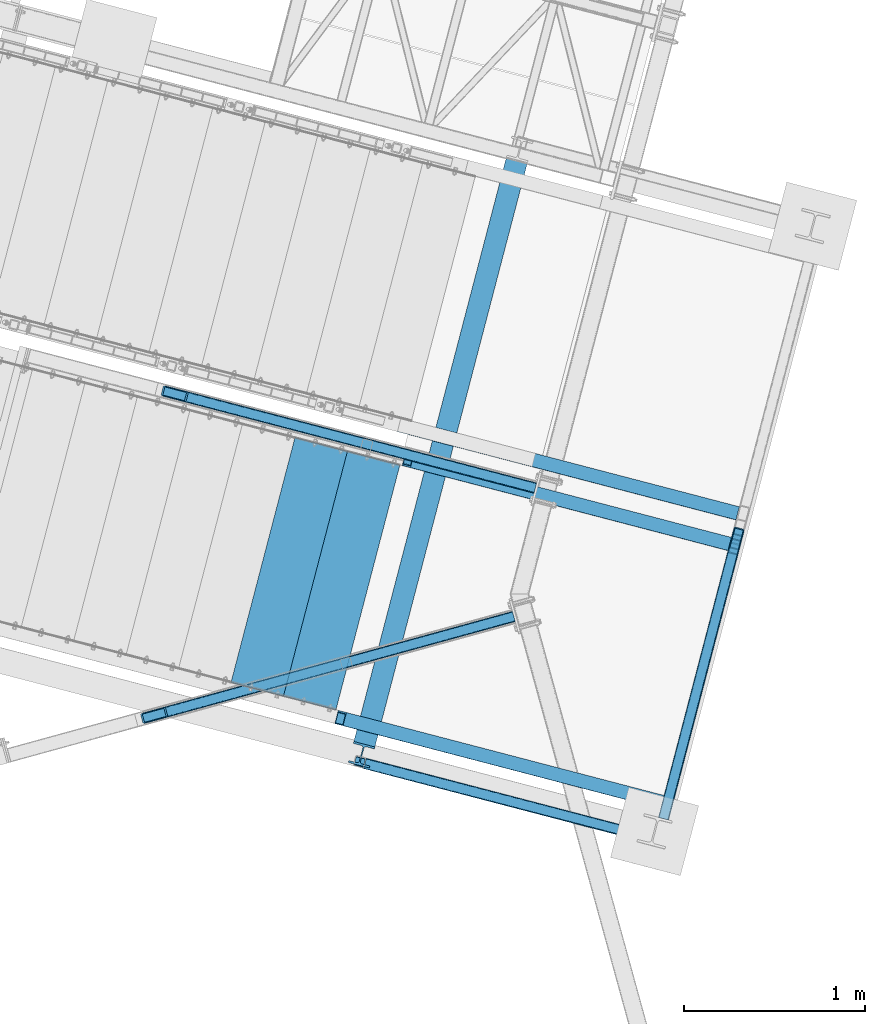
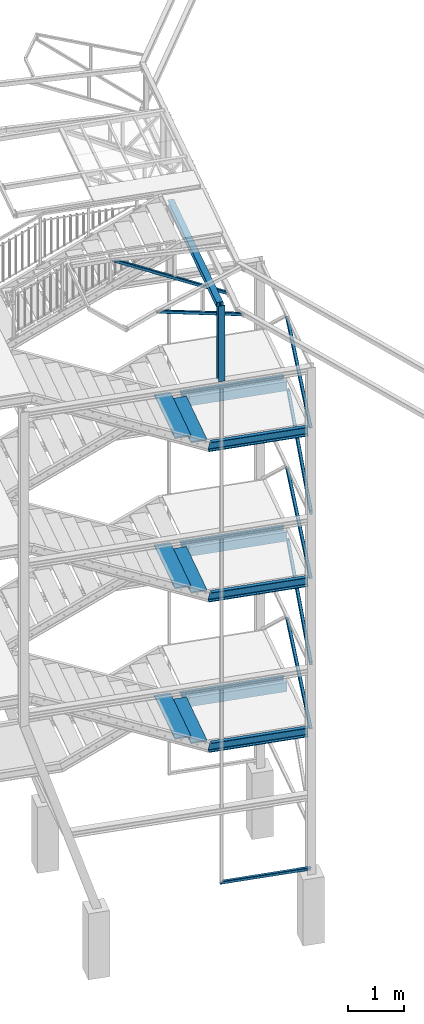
# One storey, part 37 of 169: 25 discrete accessories, 24 elements without a shape of their own.
"""IFC2X3 building model written with IfcOpenShell, lengths in millimetres."""

from ifc_helpers import new_model, si_unit, frame, origin_with_axes, origin_2d_with_axis, place, context, subcontext, project, spatial, polyline, hollow_rectangle, i_section, u_section, outline, extrude, boolean, clip, halfspace, material, type_object, element, aggregate, save


model = new_model("IFC2X3")

# Units and contexts
model_context = context("Model", 3, precision=1e-05, world=origin_with_axes())
body_context = subcontext(model_context, "Body", "Model", "MODEL_VIEW")
ifc_project = project(units=[si_unit("LENGTHUNIT", "METRE", prefix="MILLI"), si_unit("AREAUNIT", "SQUARE_METRE"), si_unit("VOLUMEUNIT", "CUBIC_METRE"), si_unit("MASSUNIT", "GRAM", prefix="KILO"), si_unit("TIMEUNIT", "SECOND"), si_unit("PLANEANGLEUNIT", "RADIAN"), si_unit("SOLIDANGLEUNIT", "STERADIAN"), si_unit("THERMODYNAMICTEMPERATUREUNIT", "DEGREE_CELSIUS"), si_unit("LUMINOUSINTENSITYUNIT", "LUMEN")], contexts=[model_context])

# Site, building, storey
site_placement = place(None, origin_with_axes())
site = spatial("IfcSite", under=ifc_project, at=site_placement, Name="Undefined", CompositionType="ELEMENT")
building_placement = place(site_placement, origin_with_axes())
building = spatial("IfcBuilding", under=site, at=building_placement, Name="Undefined", CompositionType="ELEMENT")
storey_placement = place(building_placement, origin_with_axes())
storey = spatial("IfcBuildingStorey", under=building, at=storey_placement, Name="Undefined", CompositionType="ELEMENT", Elevation=0.0)

# Assembly, discrete accessory
assembly_1_placement = place(storey_placement, origin_with_axes())
assembly_1 = element("IfcElementAssembly", 1, at=assembly_1_placement, inside=storey, Name="Steel Assembly", AssemblyPlace="NOTDEFINED", PredefinedType="RIGID_FRAME")
ifc_material_1 = material(Name="STEEL/S235")
discrete_accessory_type_1 = type_object("IfcDiscreteAccessoryType", Name="BEAM")
discrete_accessory_1_placement = place(assembly_1_placement, frame((-26042.4196522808, 4978.09536056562, 13846.2274015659), z_axis=(0.264972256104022, -0.964256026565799, -0.000136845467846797), x_axis=(0.853764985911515, 0.234675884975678, -0.46477153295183)))
discrete_accessory_1 = element("IfcDiscreteAccessory", 2, at=discrete_accessory_1_placement, type_object=discrete_accessory_type_1, material=ifc_material_1, Name="BEAM", ObjectType="SHS60*4", context=body_context, shape_type="Clipping", body=[
    clip(clip(extrude(hollow_rectangle(XDim=60.0, YDim=60.0, WallThickness=4.0, InnerFilletRadius=4.0, OuterFilletRadius=8.0, at=origin_2d_with_axis()), frame((2313.86418311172, -2.95168537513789e-14, 1.88898203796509e-12), z_axis=(-1.0, -3.46944695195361e-18, -1.38777878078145e-17), x_axis=(1.73472347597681e-18, -1.0, 0.0)), (0.0, 0.0, 1.0), 2547.06), halfspace(frame((2189.31513366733, 30.0000982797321, 0.00127692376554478), z_axis=(-0.885430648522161, -0.464771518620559, 4.62251412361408e-05), x_axis=(5.84452482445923e-05, -1.1885566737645e-05, 0.999999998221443)), True)), halfspace(frame((-202.833458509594, -36.3005821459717, 1000.00009236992), z_axis=(0.420020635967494, -0.907514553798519, 2.31037038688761e-06), x_axis=(0.907514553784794, 0.420020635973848, 4.99097867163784e-06)), True)),
])
aggregate(assembly_1, [discrete_accessory_1])

assembly_2_placement = place(storey_placement, origin_with_axes())
assembly_2 = element("IfcElementAssembly", 3, at=assembly_2_placement, inside=storey, Name="Steel Assembly", AssemblyPlace="NOTDEFINED", PredefinedType="RIGID_FRAME")
discrete_accessory_2_placement = place(assembly_2_placement, frame((-25930.3382093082, 6699.55484888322, 13846.9371574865), z_axis=(-0.252673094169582, -0.967551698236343, 0.000136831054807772), x_axis=(0.856714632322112, -0.223794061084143, -0.464710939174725)))
discrete_accessory_2 = element("IfcDiscreteAccessory", 4, at=discrete_accessory_2_placement, type_object=discrete_accessory_type_1, material=ifc_material_1, Name="BEAM", ObjectType="SHS60*4", context=body_context, shape_type="Clipping", body=[
    clip(clip(extrude(hollow_rectangle(XDim=60.0, YDim=60.0, WallThickness=4.0, InnerFilletRadius=4.0, OuterFilletRadius=8.0, at=origin_2d_with_axis()), frame((2313.28865775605, 0.0, -6.28963450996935e-13), z_axis=(-1.0, -3.46944695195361e-18, -1.38777878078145e-17), x_axis=(1.73472347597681e-18, -1.0, 0.0)), (0.0, 0.0, 1.0), 2543.43), halfspace(frame((2189.92517648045, 30.0000576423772, -0.000485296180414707), z_axis=(-0.885421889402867, -0.464788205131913, 4.62224128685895e-05), x_axis=(3.42692154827e-05, 3.41654523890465e-05, 0.999999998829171)), True)), halfspace(frame((-200.96246368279, -36.3005821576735, 1000.00009235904), z_axis=(0.420020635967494, -0.907514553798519, 2.31037038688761e-06), x_axis=(0.907514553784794, 0.420020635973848, 4.99097867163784e-06)), True)),
])
aggregate(assembly_2, [discrete_accessory_2])

assembly_3_placement = place(storey_placement, origin_with_axes())
assembly_3 = element("IfcElementAssembly", 5, at=assembly_3_placement, inside=storey, Name="Steel Assembly", AssemblyPlace="NOTDEFINED", PredefinedType="RIGID_FRAME")
discrete_accessory_3_placement = place(assembly_3_placement, frame((-25012.1288601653, 4690.68963165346, 1140.45098316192), z_axis=(-3.45692487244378e-05, -0.000132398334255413, -0.999999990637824), x_axis=(0.967563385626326, -0.252628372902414, 0.0)))
discrete_accessory_3 = element("IfcDiscreteAccessory", 6, at=discrete_accessory_3_placement, type_object=discrete_accessory_type_1, material=ifc_material_1, Name="BEAM", ObjectType="SHS60*4", context=body_context, shape_type="CSG", body=[
    boolean("DIFFERENCE", boolean("DIFFERENCE", boolean("DIFFERENCE", extrude(hollow_rectangle(XDim=60.0, YDim=60.0, WallThickness=4.0, InnerFilletRadius=4.0, OuterFilletRadius=8.0, at=origin_2d_with_axis()), frame((1670.00000012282, -6.82121026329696e-13, -2.27373675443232e-13), z_axis=(-1.0, -3.46944695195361e-18, -1.38777878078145e-17), x_axis=(1.73472347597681e-18, -1.0, 0.0)), (0.0, 0.0, 1.0), 1728.94), extrude(outline(polyline([(0.0, 0.0), (23657.1582031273, 6.88623913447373e-09), (23657.1582031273, 14.0000000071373), (2.02362571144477e-11, 14.000007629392), (0.0, 0.0)])), frame((25252.1589955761, 26.0000080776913, 40.0000049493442), z_axis=(-2.54700353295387e-10, 0.0, -1.0), x_axis=(-1.0, -3.46944695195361e-18, -1.38777878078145e-17)), (0.0, 0.0, 1.0), 80.0)), halfspace(frame((1670.00000035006, -29.9999999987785, -1030.00000474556), z_axis=(1.0, 0.0, 0.0), x_axis=(1.73472347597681e-18, -1.0, 0.0)), False)), halfspace(frame((29.9999997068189, -6.7422047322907e-07, -30.0000000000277), z_axis=(0.707106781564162, 2.34575523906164e-10, 0.707106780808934), x_axis=(1.73472347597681e-18, -1.0, 0.0)), True)),
])
aggregate(assembly_3, [discrete_accessory_3])

# Assembly, discrete accessories
assembly_4_placement = place(storey_placement, origin_with_axes())
assembly_4 = element("IfcElementAssembly", 7, at=assembly_4_placement, inside=storey, Name="Steel Assembly", AssemblyPlace="NOTDEFINED", PredefinedType="RIGID_FRAME")
discrete_accessory_4_placement = place(assembly_4_placement, frame((-25001.5881570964, 4731.06038744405, 13740.4453917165), z_axis=(3.4552000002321e-05, 0.000132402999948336, 0.999999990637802), x_axis=(0.252628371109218, 0.967563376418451, -0.000136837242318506)))
discrete_accessory_4 = element("IfcDiscreteAccessory", 8, at=discrete_accessory_4_placement, type_object=discrete_accessory_type_1, material=ifc_material_1, Name="BEAM", ObjectType="HEB120", context=body_context, shape_type="Clipping", body=[
    clip(clip(extrude(i_section(OverallWidth=120.0, OverallDepth=120.0, WebThickness=6.5, FlangeThickness=11.0, FilletRadius=12.0, at=origin_2d_with_axis()), frame((3399.99999930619, -3.64583701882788e-12, -1.81898940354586e-12), z_axis=(-1.0, -3.46944695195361e-18, -1.38777878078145e-17), x_axis=(1.73472347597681e-18, -1.0, 0.0)), (0.0, 0.0, 1.0), 3340.0), halfspace(frame((3399.99999887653, 1.16415321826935e-09, 999.999999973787), z_axis=(-1.0, -3.46944695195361e-18, -1.38777878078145e-17), x_axis=(1.73472347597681e-18, -1.0, 0.0)), True)), halfspace(frame((59.9999988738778, 1.18234311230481e-09, 1000.00000002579), z_axis=(1.0, 0.0, 0.0), x_axis=(0.0, 1.0, 0.0)), True)),
])
discrete_accessory_5_placement = place(assembly_4_placement, frame((-25001.64346735, 4730.84854989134, 12140.4454066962), z_axis=(3.4552000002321e-05, 0.000132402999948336, 0.999999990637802), x_axis=(-0.252628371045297, -0.967563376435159, 0.000136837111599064)))
discrete_accessory_5 = element("IfcDiscreteAccessory", 9, at=discrete_accessory_5_placement, type_object=discrete_accessory_type_1, material=ifc_material_1, Name="BEAM", ObjectType="HEB120", context=body_context, shape_type="SweptSolid", body=[
    extrude(i_section(OverallWidth=120.0, OverallDepth=120.0, WebThickness=6.5, FlangeThickness=11.0, FilletRadius=12.0, at=origin_2d_with_axis()), frame((2.2741866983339e-13, -6.44010358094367e-18, 1659.99999999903), z_axis=(-2.54700353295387e-10, 0.0, -1.0), x_axis=(0.0, 1.0, 0.0)), (0.0, 0.0, 1.0), 1660.0),
])
aggregate(assembly_4, [discrete_accessory_4, discrete_accessory_5])

# Assembly, discrete accessory
assembly_5_placement = place(storey_placement, origin_with_axes())
assembly_5 = element("IfcElementAssembly", 10, at=assembly_5_placement, inside=storey, Name="Steel Assembly", AssemblyPlace="NOTDEFINED", PredefinedType="RIGID_FRAME")
ifc_material_2 = material(Name="STEEL/S235JR")
discrete_accessory_type_2 = type_object("IfcDiscreteAccessoryType", Name="STOPNIE")
discrete_accessory_6_placement = place(assembly_5_placement, frame((-25225.0857591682, 6447.82722532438, 10865.3215823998), z_axis=(-2.54700353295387e-10, 0.0, -1.0), x_axis=(-0.252694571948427, -0.96754609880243, 0.0)))
discrete_accessory_6 = element("IfcDiscreteAccessory", 11, at=discrete_accessory_6_placement, type_object=discrete_accessory_type_2, material=ifc_material_2, Name="STOPNIE", ObjectType="PL30*300", context=body_context, shape_type="SweptSolid", body=[
    extrude(outline(polyline([(1400.00000144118, 150.000000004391), (1400.0000014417, -149.999999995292), (3.45607986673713e-11, -150.00000000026), (-3.09228198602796e-11, 150.000000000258), (1400.00000144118, 150.000000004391)])), frame((1.81898940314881e-12, 3.72231275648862e-23, -15.0000000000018), z_axis=(0.0, 0.0, 1.0), x_axis=(1.0, 0.0, 0.0)), (0.0, 0.0, 1.0), 30.0),
])
aggregate(assembly_5, [discrete_accessory_6])

assembly_6_placement = place(storey_placement, origin_with_axes())
assembly_6 = element("IfcElementAssembly", 12, at=assembly_6_placement, inside=storey, Name="Steel Assembly", AssemblyPlace="NOTDEFINED", PredefinedType="RIGID_FRAME")
discrete_accessory_7_placement = place(assembly_6_placement, frame((-24934.8219260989, 6372.01885297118, 10715.3215823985), z_axis=(-2.54700353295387e-10, 0.0, -1.0), x_axis=(-0.252694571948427, -0.96754609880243, 0.0)))
discrete_accessory_7 = element("IfcDiscreteAccessory", 13, at=discrete_accessory_7_placement, type_object=discrete_accessory_type_2, material=ifc_material_2, Name="STOPNIE", ObjectType="PL30*300", context=body_context, shape_type="SweptSolid", body=[
    extrude(outline(polyline([(1400.00000144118, 150.000000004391), (1400.0000014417, -149.999999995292), (3.45607986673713e-11, -150.00000000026), (-3.09228198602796e-11, 150.000000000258), (1400.00000144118, 150.000000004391)])), frame((1.81898940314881e-12, 3.72231275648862e-23, -15.0000000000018), z_axis=(0.0, 0.0, 1.0), x_axis=(1.0, 0.0, 0.0)), (0.0, 0.0, 1.0), 30.0),
])
aggregate(assembly_6, [discrete_accessory_7])

assembly_7_placement = place(storey_placement, origin_with_axes())
assembly_7 = element("IfcElementAssembly", 14, at=assembly_7_placement, inside=storey, Name="Steel Assembly", AssemblyPlace="NOTDEFINED", PredefinedType="RIGID_FRAME")
discrete_accessory_8_placement = place(assembly_7_placement, frame((-25225.1998365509, 6447.39031037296, 7565.32161330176), z_axis=(-2.54700353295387e-10, 0.0, -1.0), x_axis=(-0.252694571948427, -0.96754609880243, 0.0)))
discrete_accessory_8 = element("IfcDiscreteAccessory", 15, at=discrete_accessory_8_placement, type_object=discrete_accessory_type_2, material=ifc_material_2, Name="STOPNIE", ObjectType="PL30*300", context=body_context, shape_type="SweptSolid", body=[
    extrude(outline(polyline([(1400.00000144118, 150.000000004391), (1400.0000014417, -149.999999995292), (3.45607986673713e-11, -150.00000000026), (-3.09228198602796e-11, 150.000000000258), (1400.00000144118, 150.000000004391)])), frame((1.81898940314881e-12, 3.72231275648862e-23, -15.0000000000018), z_axis=(0.0, 0.0, 1.0), x_axis=(1.0, 0.0, 0.0)), (0.0, 0.0, 1.0), 30.0),
])
aggregate(assembly_7, [discrete_accessory_8])

assembly_8_placement = place(storey_placement, origin_with_axes())
assembly_8 = element("IfcElementAssembly", 16, at=assembly_8_placement, inside=storey, Name="Steel Assembly", AssemblyPlace="NOTDEFINED", PredefinedType="RIGID_FRAME")
discrete_accessory_9_placement = place(assembly_8_placement, frame((-24934.9360034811, 6371.58193802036, 7415.32161330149), z_axis=(-2.54700353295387e-10, 0.0, -1.0), x_axis=(-0.252694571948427, -0.96754609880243, 0.0)))
discrete_accessory_9 = element("IfcDiscreteAccessory", 17, at=discrete_accessory_9_placement, type_object=discrete_accessory_type_2, material=ifc_material_2, Name="STOPNIE", ObjectType="PL30*300", context=body_context, shape_type="SweptSolid", body=[
    extrude(outline(polyline([(1400.00000144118, 150.000000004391), (1400.0000014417, -149.999999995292), (3.45607986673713e-11, -150.00000000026), (-3.09228198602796e-11, 150.000000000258), (1400.00000144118, 150.000000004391)])), frame((1.81898940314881e-12, 3.72231275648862e-23, -15.0000000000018), z_axis=(0.0, 0.0, 1.0), x_axis=(1.0, 0.0, 0.0)), (0.0, 0.0, 1.0), 30.0),
])
aggregate(assembly_8, [discrete_accessory_9])

assembly_9_placement = place(storey_placement, origin_with_axes())
assembly_9 = element("IfcElementAssembly", 18, at=assembly_9_placement, inside=storey, Name="Steel Assembly", AssemblyPlace="NOTDEFINED", PredefinedType="RIGID_FRAME")
discrete_accessory_10_placement = place(assembly_9_placement, frame((-25225.3139139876, 6446.95339543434, 4265.32164420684), z_axis=(-2.54700353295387e-10, 0.0, -1.0), x_axis=(-0.252694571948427, -0.96754609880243, 0.0)))
discrete_accessory_10 = element("IfcDiscreteAccessory", 19, at=discrete_accessory_10_placement, type_object=discrete_accessory_type_2, material=ifc_material_2, Name="STOPNIE", ObjectType="PL30*300", context=body_context, shape_type="SweptSolid", body=[
    extrude(outline(polyline([(1400.00000144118, 150.000000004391), (1400.0000014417, -149.999999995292), (3.45607986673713e-11, -150.00000000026), (-3.09228198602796e-11, 150.000000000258), (1400.00000144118, 150.000000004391)])), frame((1.81898940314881e-12, 3.72231275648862e-23, -15.0000000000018), z_axis=(0.0, 0.0, 1.0), x_axis=(1.0, 0.0, 0.0)), (0.0, 0.0, 1.0), 30.0),
])
aggregate(assembly_9, [discrete_accessory_10])

assembly_10_placement = place(storey_placement, origin_with_axes())
assembly_10 = element("IfcElementAssembly", 20, at=assembly_10_placement, inside=storey, Name="Steel Assembly", AssemblyPlace="NOTDEFINED", PredefinedType="RIGID_FRAME")
discrete_accessory_11_placement = place(assembly_10_placement, frame((-24935.050080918, 6371.14502308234, 4115.32164420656), z_axis=(-2.54700353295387e-10, 0.0, -1.0), x_axis=(-0.252694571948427, -0.96754609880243, 0.0)))
discrete_accessory_11 = element("IfcDiscreteAccessory", 21, at=discrete_accessory_11_placement, type_object=discrete_accessory_type_2, material=ifc_material_2, Name="STOPNIE", ObjectType="PL30*300", context=body_context, shape_type="SweptSolid", body=[
    extrude(outline(polyline([(1400.00000144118, 150.000000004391), (1400.0000014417, -149.999999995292), (3.45607986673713e-11, -150.00000000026), (-3.09228198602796e-11, 150.000000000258), (1400.00000144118, 150.000000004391)])), frame((1.81898940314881e-12, 3.72231275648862e-23, -15.0000000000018), z_axis=(0.0, 0.0, 1.0), x_axis=(1.0, 0.0, 0.0)), (0.0, 0.0, 1.0), 30.0),
])
aggregate(assembly_10, [discrete_accessory_11])

assembly_11_placement = place(storey_placement, origin_with_axes())
assembly_11 = element("IfcElementAssembly", 22, at=assembly_11_placement, inside=storey, Name="Steel Assembly", AssemblyPlace="NOTDEFINED", PredefinedType="RIGID_FRAME")
discrete_accessory_type_3 = type_object("IfcDiscreteAccessoryType", Name="BELKA")
discrete_accessory_12_placement = place(assembly_11_placement, frame((-25094.885691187, 4928.10547599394, 10600.3215824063), z_axis=(0.0, 0.0, 1.0), x_axis=(0.96754609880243, -0.252694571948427, 0.0)))
discrete_accessory_12 = element("IfcDiscreteAccessory", 23, at=discrete_accessory_12_placement, type_object=discrete_accessory_type_3, material=ifc_material_1, Name="BELKA", ObjectType="UPN200", context=body_context, shape_type="Clipping", body=[
    clip(extrude(u_section(Depth=200.0, FlangeWidth=75.0, WebThickness=8.5, FlangeThickness=11.5, FilletRadius=11.5, EdgeRadius=6.0, at=origin_2d_with_axis()), frame((1814.99999929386, 0.0, 0.0), z_axis=(-1.0, -3.46944695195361e-18, -1.38777878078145e-17), x_axis=(1.73472347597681e-18, -1.0, 0.0)), (0.0, 0.0, 1.0), 1899.49), halfspace(frame((3.62019272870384e-06, -1.1159072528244e-06, 100.000000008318), z_axis=(0.973248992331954, -5.59252455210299e-10, -0.229752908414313), x_axis=(0.0, 1.0, 0.0)), True)),
])
aggregate(assembly_11, [discrete_accessory_12])

assembly_12_placement = place(storey_placement, origin_with_axes())
assembly_12 = element("IfcElementAssembly", 24, at=assembly_12_placement, inside=storey, Name="Steel Assembly", AssemblyPlace="NOTDEFINED", PredefinedType="RIGID_FRAME")
discrete_accessory_13_placement = place(assembly_12_placement, frame((-22966.0650293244, 5896.59532469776, 10600.3215823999), z_axis=(0.0, 0.0, 1.0), x_axis=(-0.967546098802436, 0.252694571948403, 0.0)))
discrete_accessory_13 = element("IfcDiscreteAccessory", 25, at=discrete_accessory_13_placement, type_object=discrete_accessory_type_3, material=ifc_material_1, Name="BELKA", ObjectType="UPN200", context=body_context, shape_type="Clipping", body=[
    clip(extrude(u_section(Depth=200.0, FlangeWidth=75.0, WebThickness=8.5, FlangeThickness=11.5, FilletRadius=11.5, EdgeRadius=6.0, at=origin_2d_with_axis()), frame((1899.49044974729, -8.81072992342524e-13, -1.81898940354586e-12), z_axis=(-1.0, -3.46944695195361e-18, -1.38777878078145e-17), x_axis=(1.73472347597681e-18, -1.0, 0.0)), (0.0, 0.0, 1.0), 1899.49), halfspace(frame((1814.99999937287, 7.91136727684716e-07, 100.000000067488), z_axis=(-0.973248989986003, -3.54065919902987e-15, -0.229752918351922), x_axis=(1.73472347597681e-18, -1.0, 0.0)), True)),
])
aggregate(assembly_12, [discrete_accessory_13])

assembly_13_placement = place(storey_placement, origin_with_axes())
assembly_13 = element("IfcElementAssembly", 26, at=assembly_13_placement, inside=storey, Name="Steel Assembly", AssemblyPlace="NOTDEFINED", PredefinedType="RIGID_FRAME")
discrete_accessory_14_placement = place(assembly_13_placement, frame((-24794.0588432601, 6554.87495779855, 10600.0958013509), z_axis=(0.0, 0.0, 1.0), x_axis=(0.967580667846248, -0.252562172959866, 0.0)))
discrete_accessory_14 = element("IfcDiscreteAccessory", 27, at=discrete_accessory_14_placement, type_object=discrete_accessory_type_3, material=ifc_material_1, Name="BELKA", ObjectType="UPN200", context=body_context, shape_type="Clipping", body=[
    clip(extrude(u_section(Depth=200.0, FlangeWidth=75.0, WebThickness=8.5, FlangeThickness=11.5, FilletRadius=11.5, EdgeRadius=6.0, at=origin_2d_with_axis()), frame((1934.99999930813, -1.07414077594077e-13, 0.0), z_axis=(-1.0, -3.46944695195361e-18, -1.38777878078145e-17), x_axis=(1.73472347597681e-18, -1.0, 0.0)), (0.0, 0.0, 1.0), 1972.26), halfspace(frame((3.32713170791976e-06, -37.5000000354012, 100.000000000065), z_axis=(-0.973248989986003, -3.54065919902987e-15, -0.229752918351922), x_axis=(1.73472347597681e-18, -1.0, 0.0)), False)),
])
aggregate(assembly_13, [discrete_accessory_14])

assembly_14_placement = place(storey_placement, origin_with_axes())
assembly_14 = element("IfcElementAssembly", 28, at=assembly_14_placement, inside=storey, Name="Steel Assembly", AssemblyPlace="NOTDEFINED", PredefinedType="RIGID_FRAME")
discrete_accessory_15_placement = place(assembly_14_placement, frame((-25094.9997685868, 4927.66856104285, 7300.32161330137), z_axis=(0.0, 0.0, 1.0), x_axis=(0.96754609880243, -0.252694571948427, 0.0)))
discrete_accessory_15 = element("IfcDiscreteAccessory", 29, at=discrete_accessory_15_placement, type_object=discrete_accessory_type_3, material=ifc_material_1, Name="BELKA", ObjectType="UPN200", context=body_context, shape_type="Clipping", body=[
    clip(extrude(u_section(Depth=200.0, FlangeWidth=75.0, WebThickness=8.5, FlangeThickness=11.5, FilletRadius=11.5, EdgeRadius=6.0, at=origin_2d_with_axis()), frame((1814.99999929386, 0.0, 0.0), z_axis=(-1.0, -3.46944695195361e-18, -1.38777878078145e-17), x_axis=(1.73472347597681e-18, -1.0, 0.0)), (0.0, 0.0, 1.0), 1899.49), halfspace(frame((3.62019272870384e-06, -1.1159072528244e-06, 100.000000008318), z_axis=(0.973248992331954, -5.59252455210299e-10, -0.229752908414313), x_axis=(0.0, 1.0, 0.0)), True)),
])
aggregate(assembly_14, [discrete_accessory_15])

assembly_15_placement = place(storey_placement, origin_with_axes())
assembly_15 = element("IfcElementAssembly", 30, at=assembly_15_placement, inside=storey, Name="Steel Assembly", AssemblyPlace="NOTDEFINED", PredefinedType="RIGID_FRAME")
discrete_accessory_16_placement = place(assembly_15_placement, frame((-22966.1791066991, 5896.15840974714, 7300.32161329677), z_axis=(0.0, 0.0, 1.0), x_axis=(-0.967546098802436, 0.252694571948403, 0.0)))
discrete_accessory_16 = element("IfcDiscreteAccessory", 31, at=discrete_accessory_16_placement, type_object=discrete_accessory_type_3, material=ifc_material_1, Name="BELKA", ObjectType="UPN200", context=body_context, shape_type="Clipping", body=[
    clip(extrude(u_section(Depth=200.0, FlangeWidth=75.0, WebThickness=8.5, FlangeThickness=11.5, FilletRadius=11.5, EdgeRadius=6.0, at=origin_2d_with_axis()), frame((1899.49044974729, -8.81072992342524e-13, -1.81898940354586e-12), z_axis=(-1.0, -3.46944695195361e-18, -1.38777878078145e-17), x_axis=(1.73472347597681e-18, -1.0, 0.0)), (0.0, 0.0, 1.0), 1899.49), halfspace(frame((1814.99999937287, 7.91136727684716e-07, 100.000000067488), z_axis=(-0.973248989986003, -3.54065919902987e-15, -0.229752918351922), x_axis=(1.73472347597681e-18, -1.0, 0.0)), True)),
])
aggregate(assembly_15, [discrete_accessory_16])

assembly_16_placement = place(storey_placement, origin_with_axes())
assembly_16 = element("IfcElementAssembly", 32, at=assembly_16_placement, inside=storey, Name="Steel Assembly", AssemblyPlace="NOTDEFINED", PredefinedType="RIGID_FRAME")
discrete_accessory_17_placement = place(assembly_16_placement, frame((-24794.1729206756, 6554.43804285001, 7300.09583225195), z_axis=(0.0, 0.0, 1.0), x_axis=(0.967580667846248, -0.252562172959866, 0.0)))
discrete_accessory_17 = element("IfcDiscreteAccessory", 33, at=discrete_accessory_17_placement, type_object=discrete_accessory_type_3, material=ifc_material_1, Name="BELKA", ObjectType="UPN200", context=body_context, shape_type="Clipping", body=[
    clip(extrude(u_section(Depth=200.0, FlangeWidth=75.0, WebThickness=8.5, FlangeThickness=11.5, FilletRadius=11.5, EdgeRadius=6.0, at=origin_2d_with_axis()), frame((1934.99999930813, -1.07414077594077e-13, 0.0), z_axis=(-1.0, -3.46944695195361e-18, -1.38777878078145e-17), x_axis=(1.73472347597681e-18, -1.0, 0.0)), (0.0, 0.0, 1.0), 1972.26), halfspace(frame((3.32713170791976e-06, -37.5000000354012, 100.000000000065), z_axis=(-0.973248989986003, -3.54065919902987e-15, -0.229752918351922), x_axis=(1.73472347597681e-18, -1.0, 0.0)), False)),
])
aggregate(assembly_16, [discrete_accessory_17])

assembly_17_placement = place(storey_placement, origin_with_axes())
assembly_17 = element("IfcElementAssembly", 34, at=assembly_17_placement, inside=storey, Name="Steel Assembly", AssemblyPlace="NOTDEFINED", PredefinedType="RIGID_FRAME")
discrete_accessory_18_placement = place(assembly_17_placement, frame((-25095.1138459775, 4927.23164609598, 4000.32164420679), z_axis=(0.0, 0.0, 1.0), x_axis=(0.96754609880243, -0.252694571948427, 0.0)))
discrete_accessory_18 = element("IfcDiscreteAccessory", 35, at=discrete_accessory_18_placement, type_object=discrete_accessory_type_3, material=ifc_material_1, Name="BELKA", ObjectType="UPN200", context=body_context, shape_type="Clipping", body=[
    clip(extrude(u_section(Depth=200.0, FlangeWidth=75.0, WebThickness=8.5, FlangeThickness=11.5, FilletRadius=11.5, EdgeRadius=6.0, at=origin_2d_with_axis()), frame((1814.99999929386, 0.0, 0.0), z_axis=(-1.0, -3.46944695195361e-18, -1.38777878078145e-17), x_axis=(1.73472347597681e-18, -1.0, 0.0)), (0.0, 0.0, 1.0), 1899.49), halfspace(frame((3.62019272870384e-06, -1.1159072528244e-06, 100.000000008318), z_axis=(0.973248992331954, -5.59252455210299e-10, -0.229752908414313), x_axis=(0.0, 1.0, 0.0)), True)),
])
aggregate(assembly_17, [discrete_accessory_18])

assembly_18_placement = place(storey_placement, origin_with_axes())
assembly_18 = element("IfcElementAssembly", 36, at=assembly_18_placement, inside=storey, Name="Steel Assembly", AssemblyPlace="NOTDEFINED", PredefinedType="RIGID_FRAME")
discrete_accessory_19_placement = place(assembly_18_placement, frame((-22966.2931841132, 5895.72149480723, 4000.32164419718), z_axis=(0.0, 0.0, 1.0), x_axis=(-0.967546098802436, 0.252694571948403, 0.0)))
discrete_accessory_19 = element("IfcDiscreteAccessory", 37, at=discrete_accessory_19_placement, type_object=discrete_accessory_type_3, material=ifc_material_1, Name="BELKA", ObjectType="UPN200", context=body_context, shape_type="Clipping", body=[
    clip(extrude(u_section(Depth=200.0, FlangeWidth=75.0, WebThickness=8.5, FlangeThickness=11.5, FilletRadius=11.5, EdgeRadius=6.0, at=origin_2d_with_axis()), frame((1899.49044974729, -8.81072992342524e-13, -1.81898940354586e-12), z_axis=(-1.0, -3.46944695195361e-18, -1.38777878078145e-17), x_axis=(1.73472347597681e-18, -1.0, 0.0)), (0.0, 0.0, 1.0), 1899.49), halfspace(frame((1814.99999937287, 7.91136727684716e-07, 100.000000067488), z_axis=(-0.973248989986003, -3.54065919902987e-15, -0.229752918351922), x_axis=(1.73472347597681e-18, -1.0, 0.0)), True)),
])
aggregate(assembly_18, [discrete_accessory_19])

assembly_19_placement = place(storey_placement, origin_with_axes())
assembly_19 = element("IfcElementAssembly", 38, at=assembly_19_placement, inside=storey, Name="Steel Assembly", AssemblyPlace="NOTDEFINED", PredefinedType="RIGID_FRAME")
discrete_accessory_20_placement = place(assembly_19_placement, frame((-24794.2869980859, 6554.00112789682, 4000.09586315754), z_axis=(0.0, 0.0, 1.0), x_axis=(0.967580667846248, -0.252562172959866, 0.0)))
discrete_accessory_20 = element("IfcDiscreteAccessory", 39, at=discrete_accessory_20_placement, type_object=discrete_accessory_type_3, material=ifc_material_1, Name="BELKA", ObjectType="UPN200", context=body_context, shape_type="Clipping", body=[
    clip(extrude(u_section(Depth=200.0, FlangeWidth=75.0, WebThickness=8.5, FlangeThickness=11.5, FilletRadius=11.5, EdgeRadius=6.0, at=origin_2d_with_axis()), frame((1934.99999930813, -1.07414077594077e-13, 0.0), z_axis=(-1.0, -3.46944695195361e-18, -1.38777878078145e-17), x_axis=(1.73472347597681e-18, -1.0, 0.0)), (0.0, 0.0, 1.0), 1972.26), halfspace(frame((3.32713170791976e-06, -37.5000000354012, 100.000000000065), z_axis=(-0.973248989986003, -3.54065919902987e-15, -0.229752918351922), x_axis=(1.73472347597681e-18, -1.0, 0.0)), False)),
])
aggregate(assembly_19, [discrete_accessory_20])

assembly_20_placement = place(storey_placement, origin_with_axes())
assembly_20 = element("IfcElementAssembly", 40, at=assembly_20_placement, inside=storey, Name="Steel Assembly", AssemblyPlace="NOTDEFINED", PredefinedType="RIGID_FRAME")
discrete_accessory_type_4 = type_object("IfcDiscreteAccessoryType", Name="COLUMN")
discrete_accessory_21_placement = place(assembly_20_placement, frame((-23352.0011309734, 4299.91328044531, 10600.4454211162), z_axis=(-0.967563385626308, 0.252628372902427, -1.72000000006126e-07), x_axis=(0.192537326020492, 0.737415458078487, 0.647416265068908)))
discrete_accessory_21 = element("IfcDiscreteAccessory", 41, at=discrete_accessory_21_placement, type_object=discrete_accessory_type_4, material=ifc_material_1, Name="COLUMN", ObjectType="SHS60*4", context=body_context, shape_type="CSG", body=[
    boolean("DIFFERENCE", boolean("DIFFERENCE", boolean("DIFFERENCE", extrude(hollow_rectangle(XDim=60.0, YDim=60.0, WallThickness=4.0, InnerFilletRadius=4.0, OuterFilletRadius=8.0, at=origin_2d_with_axis()), frame((2270.82442689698, 2.07110155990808e-12, -3.65041588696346e-12), z_axis=(-1.0, -3.46944695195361e-18, -1.38777878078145e-17), x_axis=(1.73472347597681e-18, -1.0, 0.0)), (0.0, 0.0, 1.0), 2212.8), extrude(outline(polyline([(0.0, 0.0), (129.999999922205, 4.7126377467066e-08), (129.999999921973, 200.000000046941), (7.80316895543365e-08, 200.000000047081), (0.0, 0.0)])), frame((125.715894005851, -24.4031553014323, -32.5000000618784), z_axis=(0.0, 0.0, 1.0), x_axis=(0.762047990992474, 0.647520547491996, -5.69916942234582e-10)), (0.0, 0.0, 1.0), 65.0)), halfspace(frame((2250.77261295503, 22.8614397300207, 1000.00000001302), z_axis=(-0.647520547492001, 0.76204799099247, 1.96614573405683e-10), x_axis=(-0.76204799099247, -0.647520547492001, 5.69922121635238e-10)), True)), halfspace(frame((-916.792187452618, 1202.49411019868, -64.9999997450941), z_axis=(-0.76204799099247, -0.647520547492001, 5.69922121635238e-10), x_axis=(-0.647520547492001, 0.76204799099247, 1.96614573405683e-10)), False)),
])
aggregate(assembly_20, [discrete_accessory_21])

assembly_21_placement = place(storey_placement, origin_with_axes())
assembly_21 = element("IfcElementAssembly", 42, at=assembly_21_placement, inside=storey, Name="Steel Assembly", AssemblyPlace="NOTDEFINED", PredefinedType="RIGID_FRAME")
discrete_accessory_22_placement = place(assembly_21_placement, frame((-23352.1152083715, 4299.47636549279, 7300.44545201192), z_axis=(-0.967563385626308, 0.252628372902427, -1.72000000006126e-07), x_axis=(0.192537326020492, 0.737415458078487, 0.647416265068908)))
discrete_accessory_22 = element("IfcDiscreteAccessory", 43, at=discrete_accessory_22_placement, type_object=discrete_accessory_type_4, material=ifc_material_1, Name="COLUMN", ObjectType="SHS60*4", context=body_context, shape_type="CSG", body=[
    boolean("DIFFERENCE", boolean("DIFFERENCE", boolean("DIFFERENCE", extrude(hollow_rectangle(XDim=60.0, YDim=60.0, WallThickness=4.0, InnerFilletRadius=4.0, OuterFilletRadius=8.0, at=origin_2d_with_axis()), frame((2270.82442689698, 2.07110155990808e-12, -3.65041588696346e-12), z_axis=(-1.0, -3.46944695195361e-18, -1.38777878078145e-17), x_axis=(1.73472347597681e-18, -1.0, 0.0)), (0.0, 0.0, 1.0), 2212.8), extrude(outline(polyline([(0.0, 0.0), (120.000000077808, 4.71382008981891e-08), (120.000000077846, 200.000000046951), (7.80316895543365e-08, 200.000000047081), (0.0, 0.0)])), frame((125.715894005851, -24.4031553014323, -32.5000000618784), z_axis=(0.0, 0.0, 1.0), x_axis=(0.762047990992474, 0.647520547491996, -5.69916942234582e-10)), (0.0, 0.0, 1.0), 65.0)), halfspace(frame((2250.77261295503, 22.8614397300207, 1000.00000001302), z_axis=(-0.647520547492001, 0.76204799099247, 1.96614573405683e-10), x_axis=(-0.76204799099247, -0.647520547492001, 5.69922121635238e-10)), True)), halfspace(frame((-916.792187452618, 1202.49411019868, -64.9999997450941), z_axis=(-0.76204799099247, -0.647520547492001, 5.69922121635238e-10), x_axis=(-0.647520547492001, 0.76204799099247, 1.96614573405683e-10)), False)),
])
aggregate(assembly_21, [discrete_accessory_22])

assembly_22_placement = place(storey_placement, origin_with_axes())
assembly_22 = element("IfcElementAssembly", 44, at=assembly_22_placement, inside=storey, Name="Steel Assembly", AssemblyPlace="NOTDEFINED", PredefinedType="RIGID_FRAME")
discrete_accessory_23_placement = place(assembly_22_placement, frame((-23352.2292857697, 4299.03945054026, 4000.44548290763), z_axis=(-0.967563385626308, 0.252628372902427, -1.72000000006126e-07), x_axis=(0.192537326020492, 0.737415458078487, 0.647416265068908)))
discrete_accessory_23 = element("IfcDiscreteAccessory", 45, at=discrete_accessory_23_placement, type_object=discrete_accessory_type_4, material=ifc_material_1, Name="COLUMN", ObjectType="SHS60*4", context=body_context, shape_type="CSG", body=[
    boolean("DIFFERENCE", boolean("DIFFERENCE", boolean("DIFFERENCE", extrude(hollow_rectangle(XDim=60.0, YDim=60.0, WallThickness=4.0, InnerFilletRadius=4.0, OuterFilletRadius=8.0, at=origin_2d_with_axis()), frame((2270.82442689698, 2.07110155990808e-12, -3.65041588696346e-12), z_axis=(-1.0, -3.46944695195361e-18, -1.38777878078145e-17), x_axis=(1.73472347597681e-18, -1.0, 0.0)), (0.0, 0.0, 1.0), 2212.8), extrude(outline(polyline([(0.0, 0.0), (145.13398750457, 4.71181920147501e-08), (145.13398750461, 200.00000004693), (-14.8660124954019, 200.00000004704), (0.0, 0.0)])), frame((236.314957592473, 69.5740836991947, 32.4999999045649), z_axis=(-2.54700353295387e-10, 0.0, -1.0), x_axis=(-0.76204799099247, -0.647520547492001, 5.69922121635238e-10)), (0.0, 0.0, 1.0), 65.0)), halfspace(frame((2250.77261295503, 22.8614397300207, 1000.00000001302), z_axis=(-0.647520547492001, 0.76204799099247, 1.96614573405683e-10), x_axis=(-0.76204799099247, -0.647520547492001, 5.69922121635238e-10)), True)), halfspace(frame((-916.792187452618, 1202.49411019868, -64.9999997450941), z_axis=(-0.76204799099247, -0.647520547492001, 5.69922121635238e-10), x_axis=(-0.647520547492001, 0.76204799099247, 1.96614573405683e-10)), False)),
])
aggregate(assembly_22, [discrete_accessory_23])

assembly_23_placement = place(storey_placement, origin_with_axes())
assembly_23 = element("IfcElementAssembly", 46, at=assembly_23_placement, inside=storey, Name="Steel Assembly", AssemblyPlace="NOTDEFINED", PredefinedType="RIGID_FRAME")
discrete_accessory_24_placement = place(assembly_23_placement, frame((-23352.064392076, 4299.67099124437, 8770.44543824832), z_axis=(-0.967563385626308, 0.252628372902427, -1.72000000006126e-07), x_axis=(0.173574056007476, 0.664786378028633, 0.726588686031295)))
discrete_accessory_24 = element("IfcDiscreteAccessory", 47, at=discrete_accessory_24_placement, type_object=discrete_accessory_type_4, material=ifc_material_1, Name="COLUMN", ObjectType="SHS60*4", context=body_context, shape_type="Clipping", body=[
    clip(clip(extrude(hollow_rectangle(XDim=60.0, YDim=60.0, WallThickness=4.0, InnerFilletRadius=4.0, OuterFilletRadius=8.0, at=origin_2d_with_axis()), frame((2461.740229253, -9.09494701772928e-13, 4.82572946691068e-14), z_axis=(-1.0, -3.46944695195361e-18, -1.38777878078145e-17), x_axis=(1.73472347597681e-18, -1.0, 0.0)), (0.0, 0.0, 1.0), 2426.35), halfspace(frame((2445.62480325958, 68.6973259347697, 1000.00000000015), z_axis=(-0.72668269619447, 0.686973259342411, -2.02315708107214e-10), x_axis=(-0.686973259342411, -0.72668269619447, 1.47265382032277e-10)), True)), halfspace(frame((-780.72723985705, 848.15386393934, -65.0000002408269), z_axis=(-0.686973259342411, -0.72668269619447, 1.47265382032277e-10), x_axis=(-0.72668269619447, 0.686973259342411, -2.02315708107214e-10)), False)),
])
aggregate(assembly_23, [discrete_accessory_24])

assembly_24_placement = place(storey_placement, origin_with_axes())
assembly_24 = element("IfcElementAssembly", 48, at=assembly_24_placement, inside=storey, Name="Steel Assembly", AssemblyPlace="NOTDEFINED", PredefinedType="RIGID_FRAME")
discrete_accessory_25_placement = place(assembly_24_placement, frame((-23352.1795065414, 4299.23010433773, 5440.44546942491), z_axis=(-0.967563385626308, 0.252628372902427, -1.72000000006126e-07), x_axis=(0.173574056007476, 0.664786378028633, 0.726588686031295)))
discrete_accessory_25 = element("IfcDiscreteAccessory", 49, at=discrete_accessory_25_placement, type_object=discrete_accessory_type_4, material=ifc_material_1, Name="COLUMN", ObjectType="SHS60*4", context=body_context, shape_type="CSG", body=[
    boolean("DIFFERENCE", boolean("DIFFERENCE", boolean("DIFFERENCE", extrude(hollow_rectangle(XDim=60.0, YDim=60.0, WallThickness=4.0, InnerFilletRadius=4.0, OuterFilletRadius=8.0, at=origin_2d_with_axis()), frame((2489.04706148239, 1.38169867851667e-13, -7.12684165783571e-14), z_axis=(-1.0, -3.46944695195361e-18, -1.38777878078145e-17), x_axis=(1.73472347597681e-18, -1.0, 0.0)), (0.0, 0.0, 1.0), 2439.68), extrude(outline(polyline([(0.0, 0.0), (80.0000000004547, 5.02041075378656e-10), (79.99999992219, 60.0000000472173), (5.3567816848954e-11, 59.9999999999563), (0.0, 0.0)])), frame((98.5588225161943, 16.9162201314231, -32.4999999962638), z_axis=(0.0, 0.0, 1.0), x_axis=(0.686973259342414, 0.726682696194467, -1.4725210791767e-10)), (0.0, 0.0, 1.0), 65.0)), halfspace(frame((2486.90829625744, 68.6973259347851, 1000.00000000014), z_axis=(-0.72668269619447, 0.686973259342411, -2.02315708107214e-10), x_axis=(-0.686973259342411, -0.72668269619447, 1.47265382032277e-10)), True)), halfspace(frame((-780.72723985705, 848.15386393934, -65.0000002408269), z_axis=(-0.686973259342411, -0.72668269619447, 1.47265382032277e-10), x_axis=(-0.72668269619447, 0.686973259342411, -2.02315708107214e-10)), False)),
])
aggregate(assembly_24, [discrete_accessory_25])

save(model, "model.ifc")
